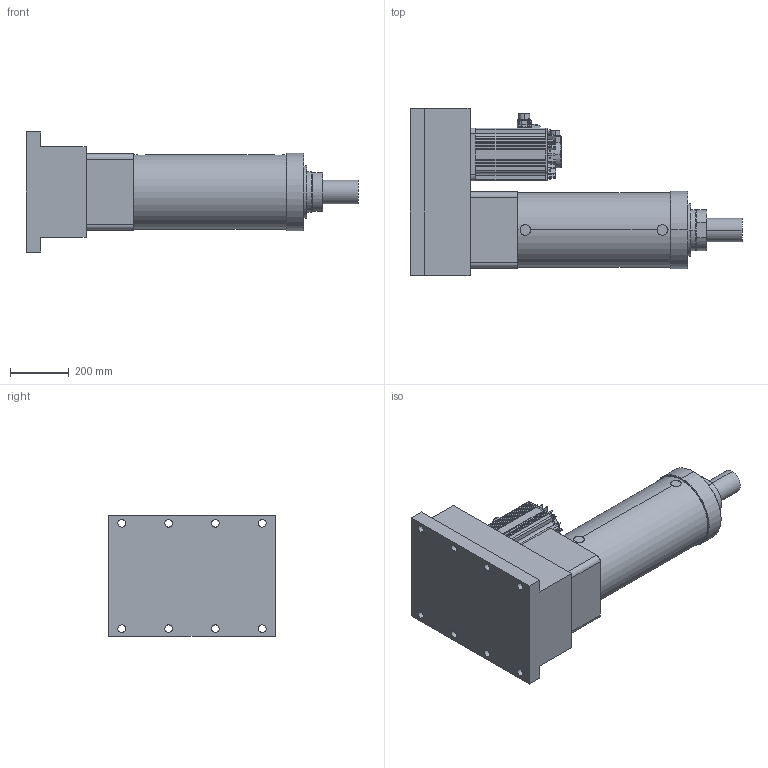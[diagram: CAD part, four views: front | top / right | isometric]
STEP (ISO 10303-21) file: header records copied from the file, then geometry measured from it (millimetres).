
FILE_DESCRIPTION (( 'STEP AP203' ), '1' );
FILE_NAME ('S9殏殿綴楊擘假蚾.STEP', '2024-05-27T05:41:45', ( '' ), ( '' ), 'SwSTEP 2.0', 'SolidWorks 2018', '' );
FILE_SCHEMA (( 'CONFIG_CONTROL_DESIGN' ));
Length unit declared in the file: millimetre
Products named in the file (3): S9殏殿綴楊擘假蚾; S9殏殿綴楊擘; ECMA-LX1855S3-180框號系列機種-5.5KW-400V高慣量系列
Assembly tree (2 placements, depth 2):
  S9殏殿綴楊擘假蚾
    S9殏殿綴楊擘
    ECMA-LX1855S3-180框號系列機種-5.5KW-400V高慣量系列
Bounding box: 1134 x 570 x 410 mm (x, y, z)
Volume: 85248967.5 mm3; surface area: 2108103 mm2
Topology: 2 solids, 5 shells, 728 faces, 1696 edges, 1043 vertices
Faces by surface type: plane 357, cylinder 268, cone 52, bspline 31, torus 20
Entity records: 23286 total; most frequent: CARTESIAN_POINT 6617, ORIENTED_EDGE 3388, DIRECTION 3348, EDGE_CURVE 1694, AXIS2_PLACEMENT_3D 1207, VERTEX_POINT 1043, VECTOR 934, LINE 934
